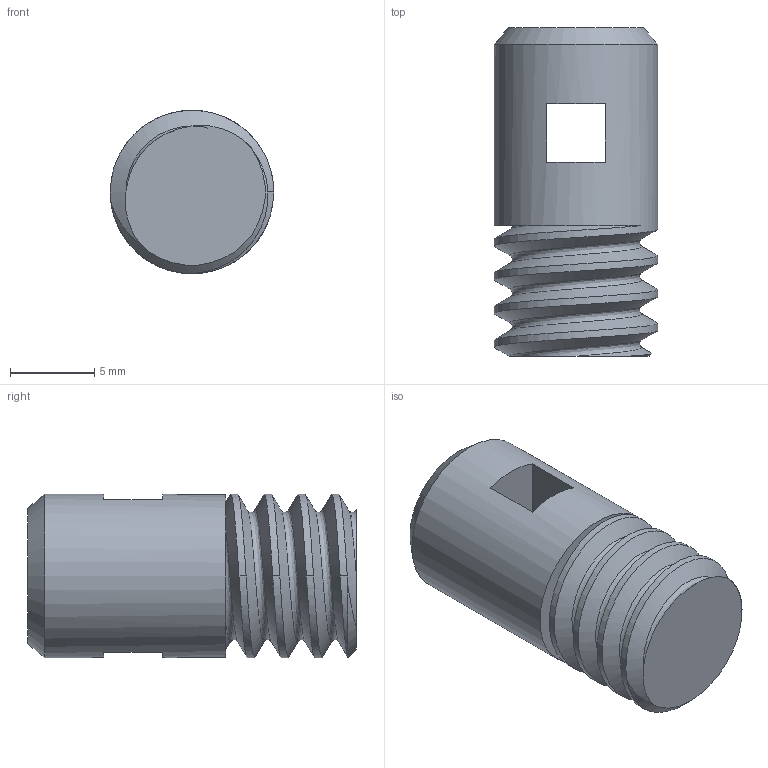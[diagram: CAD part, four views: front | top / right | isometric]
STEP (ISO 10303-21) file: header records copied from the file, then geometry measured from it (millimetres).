
FILE_DESCRIPTION(('FreeCAD Model'),'2;1');
FILE_NAME('Open CASCADE Shape Model','2025-11-08T12:08:11',(''),(''), 'Open CASCADE STEP processor 7.8','FreeCAD','Unknown');
FILE_SCHEMA(('AUTOMOTIVE_DESIGN { 1 0 10303 214 1 1 1 1 }'));
Length unit declared in the file: millimetre
Products named in the file (1): Clamp Body
Bounding box: 9.7 x 19.5 x 9.7 mm (x, y, z)
Volume: 1201.6 mm3; surface area: 924.3 mm2
Topology: 1 solids, 1 shells, 29 faces, 72 edges, 45 vertices
Faces by surface type: bspline 15, plane 7, cylinder 5, cone 2
Full cylindrical faces by diameter (mm): 9.7 x4
Entity records: 5455 total; most frequent: CARTESIAN_POINT 4211, DIRECTION 152, ORIENTED_EDGE 144, PCURVE 144, DEFINITIONAL_REPRESENTATION 144, LINE 98, VECTOR 98, B_SPLINE_CURVE_WITH_KNOTS 91
